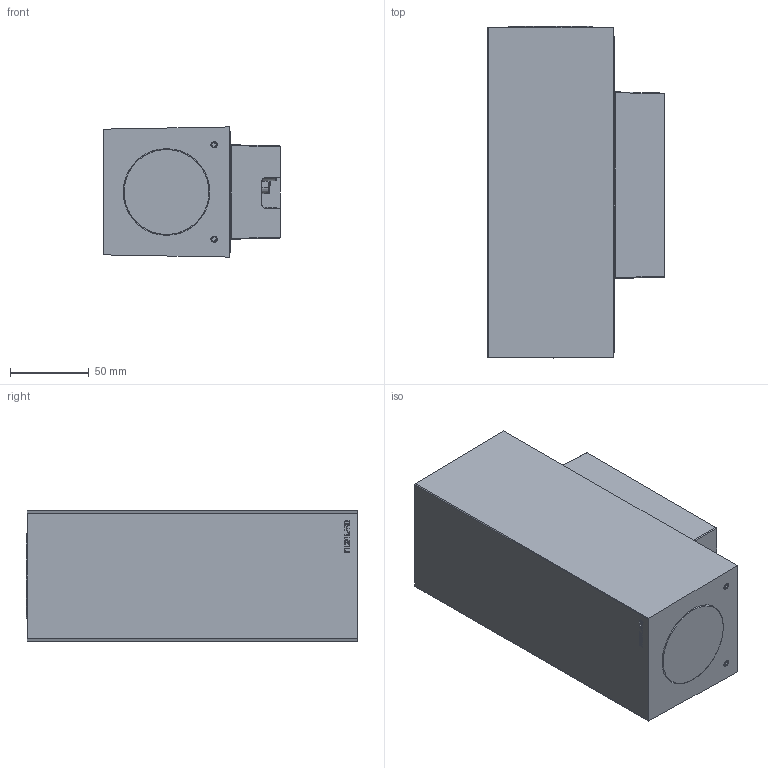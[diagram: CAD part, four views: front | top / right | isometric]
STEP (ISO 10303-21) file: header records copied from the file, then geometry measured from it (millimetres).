
FILE_DESCRIPTION (( 'STEP AP203' ), '1' );
FILE_NAME ('SANDVIK 2xLED.STEP', '2020-06-22T09:36:40', ( '' ), ( '' ), 'SwSTEP 2.0', 'SolidWorks 2019', '' );
FILE_SCHEMA (( 'CONFIG_CONTROL_DESIGN' ));
Length unit declared in the file: millimetre
Products named in the file (8): socket set screw cone point_din_DIN 914 - M4 x 8-N; M144_Przód_rs_M144W7 Obr; M144_Przód kom_rs_M144W2 Gu10; M3x_rs_x18_rs; M144_Szybka_rs_W3; M144_Ty³_rs_M144W5 Obr; M144_Ty³ kom_rs_M144W2_GU10; SANDVIK 2xLED
Assembly tree (8 placements, depth 3):
  M3x_rs_x18_rs
  SANDVIK 2xLED
    M144_Ty³ kom_rs_M144W2_GU10
      M144_Ty³_rs_M144W5 Obr
    M144_Przód kom_rs_M144W2 Gu10
      M144_Przód_rs_M144W7 Obr
      M144_Szybka_rs_W3  x2
      socket set screw cone point_din_DIN 914 - M4 x 8-N  x2
Bounding box: 112.41 x 211.1 x 82.79 mm (x, y, z)
Volume: 488416.2 mm3; surface area: 193978 mm2
Topology: 6 solids, 6 shells, 692 faces, 1637 edges, 982 vertices
Faces by surface type: plane 241, cylinder 187, bspline 96, cone 92, torus 45, sphere 31
Entity records: 22043 total; most frequent: CARTESIAN_POINT 6557, ORIENTED_EDGE 3134, DIRECTION 2941, EDGE_CURVE 1567, AXIS2_PLACEMENT_3D 1081, VERTEX_POINT 954, VECTOR 779, LINE 779
